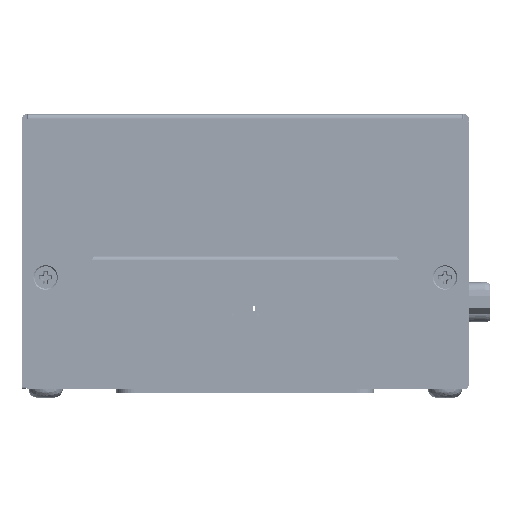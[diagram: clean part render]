
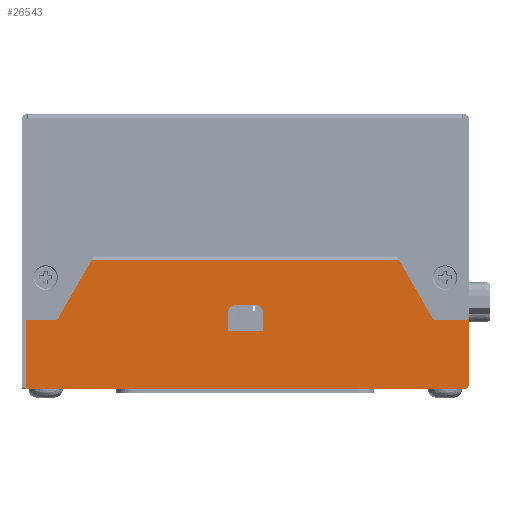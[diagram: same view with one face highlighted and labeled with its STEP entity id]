
A CAD part, left-side view. The second image highlights one B-rep face of the part: STEP entity #26543.
In plain terms, the highlighted planar face has unit normal (-1, 0, 0).
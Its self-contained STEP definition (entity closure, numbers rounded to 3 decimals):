
#498=DIRECTION('',(0.,-1.,0.));
#499=VECTOR('',#498,100.95);
#500=CARTESIAN_POINT('',(-52.,102.,30.));
#501=LINE('',#500,#499);
#523=DIRECTION('',(0.,0.,1.));
#524=VECTOR('',#523,0.3);
#525=CARTESIAN_POINT('',(-52.,1.05,29.7));
#526=LINE('',#525,#524);
#646=DIRECTION('',(0.,0.,-1.));
#647=VECTOR('',#646,0.5);
#648=CARTESIAN_POINT('',(-52.,102.,30.));
#649=LINE('',#648,#647);
#666=CARTESIAN_POINT('',(-52.,98.5,26.));
#667=DIRECTION('',(1.,0.,0.));
#668=DIRECTION('',(0.,1.,0.));
#669=AXIS2_PLACEMENT_3D('',#666,#667,#668);
#671=CARTESIAN_POINT('',(-52.,98.5,26.));
#672=DIRECTION('',(1.,0.,0.));
#673=DIRECTION('',(0.,-1.,0.));
#674=AXIS2_PLACEMENT_3D('',#671,#672,#673);
#676=CARTESIAN_POINT('',(-52.,5.5,26.));
#677=DIRECTION('',(1.,0.,0.));
#678=DIRECTION('',(0.,1.,0.));
#679=AXIS2_PLACEMENT_3D('',#676,#677,#678);
#681=CARTESIAN_POINT('',(-52.,5.5,26.));
#682=DIRECTION('',(1.,0.,0.));
#683=DIRECTION('',(0.,-1.,0.));
#684=AXIS2_PLACEMENT_3D('',#681,#682,#683);
#686=CARTESIAN_POINT('',(-52.,5.5,19.));
#687=DIRECTION('',(1.,0.,0.));
#688=DIRECTION('',(0.,1.,0.));
#689=AXIS2_PLACEMENT_3D('',#686,#687,#688);
#691=CARTESIAN_POINT('',(-52.,5.5,19.));
#692=DIRECTION('',(1.,0.,0.));
#693=DIRECTION('',(0.,-1.,0.));
#694=AXIS2_PLACEMENT_3D('',#691,#692,#693);
#696=CARTESIAN_POINT('',(-52.,49.875,17.65));
#697=DIRECTION('',(1.,0.,0.));
#698=DIRECTION('',(0.,0.,1.));
#699=AXIS2_PLACEMENT_3D('',#696,#697,#698);
#701=CARTESIAN_POINT('',(-52.,54.125,17.65));
#702=DIRECTION('',(1.,0.,0.));
#703=DIRECTION('',(0.,1.,0.));
#704=AXIS2_PLACEMENT_3D('',#701,#702,#703);
#706=DIRECTION('',(0.,-1.,0.));
#707=VECTOR('',#706,20.49);
#708=CARTESIAN_POINT('',(-52.,102.49,0.));
#709=LINE('',#708,#707);
#710=CARTESIAN_POINT('',(-52.,102.49,0.5));
#711=DIRECTION('',(-1.,0.,0.));
#712=DIRECTION('',(0.,1.,0.));
#713=AXIS2_PLACEMENT_3D('',#710,#711,#712);
#715=CARTESIAN_POINT('',(-52.,102.49,29.));
#716=DIRECTION('',(-1.,0.,0.));
#717=DIRECTION('',(0.,0.,1.));
#718=AXIS2_PLACEMENT_3D('',#715,#716,#717);
#720=CARTESIAN_POINT('',(-52.,0.5,29.2));
#721=DIRECTION('',(-1.,0.,0.));
#722=DIRECTION('',(0.,-1.,0.));
#723=AXIS2_PLACEMENT_3D('',#720,#721,#722);
#725=CARTESIAN_POINT('',(-52.,1.,1.));
#726=DIRECTION('',(-1.,0.,0.));
#727=DIRECTION('',(0.,0.,-1.));
#728=AXIS2_PLACEMENT_3D('',#725,#726,#727);
#730=DIRECTION('',(0.,-1.,0.));
#731=VECTOR('',#730,21.);
#732=CARTESIAN_POINT('',(-52.,22.,0.));
#733=LINE('',#732,#731);
#734=DIRECTION('',(0.,1.,0.));
#735=VECTOR('',#734,60.);
#736=CARTESIAN_POINT('',(-52.,22.,0.));
#737=LINE('',#736,#735);
#1224=DIRECTION('',(0.,-1.,0.));
#1225=VECTOR('',#1224,4.25);
#1226=CARTESIAN_POINT('',(-52.,54.125,19.65));
#1227=LINE('',#1226,#1225);
#1244=DIRECTION('',(0.,0.,1.));
#1245=VECTOR('',#1244,4.);
#1246=CARTESIAN_POINT('',(-52.,56.125,13.65));
#1247=LINE('',#1246,#1245);
#1248=DIRECTION('',(0.,1.,0.));
#1249=VECTOR('',#1248,8.25);
#1250=CARTESIAN_POINT('',(-52.,47.875,13.65));
#1251=LINE('',#1250,#1249);
#1260=DIRECTION('',(0.,0.,-1.));
#1261=VECTOR('',#1260,4.);
#1262=CARTESIAN_POINT('',(-52.,47.875,17.65));
#1263=LINE('',#1262,#1261);
#19842=DIRECTION('',(0.,0.,-1.));
#19843=VECTOR('',#19842,28.2);
#19844=CARTESIAN_POINT('',(-52.,0.,29.2));
#19845=LINE('',#19844,#19843);
#19858=DIRECTION('',(0.,-1.,0.));
#19859=VECTOR('',#19858,0.55);
#19860=CARTESIAN_POINT('',(-52.,1.05,29.7));
#19861=LINE('',#19860,#19859);
#19878=DIRECTION('',(0.,0.,-1.));
#19879=VECTOR('',#19878,28.5);
#19880=CARTESIAN_POINT('',(-52.,102.99,29.));
#19881=LINE('',#19880,#19879);
#19890=DIRECTION('',(0.,-1.,0.));
#19891=VECTOR('',#19890,0.49);
#19892=CARTESIAN_POINT('',(-52.,102.49,29.5));
#19893=LINE('',#19892,#19891);
#22428=CARTESIAN_POINT('',(-52.,102.49,0.));
#22430=VERTEX_POINT('',#22428);
#22431=CARTESIAN_POINT('',(-52.,1.,0.));
#22433=VERTEX_POINT('',#22431);
#22597=CARTESIAN_POINT('',(-52.,102.99,0.5));
#22598=VERTEX_POINT('',#22597);
#22599=CARTESIAN_POINT('',(-52.,102.99,29.));
#22600=VERTEX_POINT('',#22599);
#22601=CARTESIAN_POINT('',(-52.,102.49,29.5));
#22602=VERTEX_POINT('',#22601);
#22603=CARTESIAN_POINT('',(-52.,102.,29.5));
#22604=VERTEX_POINT('',#22603);
#22605=CARTESIAN_POINT('',(-52.,102.,30.));
#22606=VERTEX_POINT('',#22605);
#22607=CARTESIAN_POINT('',(-52.,1.05,30.));
#22608=VERTEX_POINT('',#22607);
#22609=CARTESIAN_POINT('',(-52.,1.05,29.7));
#22610=VERTEX_POINT('',#22609);
#22611=CARTESIAN_POINT('',(-52.,0.5,29.7));
#22612=VERTEX_POINT('',#22611);
#22613=CARTESIAN_POINT('',(-52.,0.,29.2));
#22614=VERTEX_POINT('',#22613);
#22615=CARTESIAN_POINT('',(-52.,0.,1.));
#22616=VERTEX_POINT('',#22615);
#22617=CARTESIAN_POINT('',(-52.,100.363,26.));
#22618=CARTESIAN_POINT('',(-52.,96.637,26.));
#22619=VERTEX_POINT('',#22617);
#22620=VERTEX_POINT('',#22618);
#22621=CARTESIAN_POINT('',(-52.,7.363,26.));
#22622=CARTESIAN_POINT('',(-52.,3.637,26.));
#22623=VERTEX_POINT('',#22621);
#22624=VERTEX_POINT('',#22622);
#22625=CARTESIAN_POINT('',(-52.,8.35,19.));
#22626=CARTESIAN_POINT('',(-52.,2.65,19.));
#22627=VERTEX_POINT('',#22625);
#22628=VERTEX_POINT('',#22626);
#22629=CARTESIAN_POINT('',(-52.,47.875,17.65));
#22630=CARTESIAN_POINT('',(-52.,47.875,13.65));
#22631=VERTEX_POINT('',#22629);
#22632=VERTEX_POINT('',#22630);
#22633=CARTESIAN_POINT('',(-52.,49.875,19.65));
#22634=VERTEX_POINT('',#22633);
#22635=CARTESIAN_POINT('',(-52.,54.125,19.65));
#22636=VERTEX_POINT('',#22635);
#22637=CARTESIAN_POINT('',(-52.,56.125,17.65));
#22638=VERTEX_POINT('',#22637);
#22639=CARTESIAN_POINT('',(-52.,56.125,13.65));
#22640=VERTEX_POINT('',#22639);
#25681=CARTESIAN_POINT('',(-52.,22.,0.));
#25683=VERTEX_POINT('',#25681);
#25685=CARTESIAN_POINT('',(-52.,82.,0.));
#25687=VERTEX_POINT('',#25685);
#26479=CARTESIAN_POINT('',(-52.,51.495,15.));
#26480=DIRECTION('',(1.,0.,0.));
#26481=DIRECTION('',(0.,-1.,0.));
#26482=AXIS2_PLACEMENT_3D('',#26479,#26480,#26481);
#26483=PLANE('',#26482);
#26485=ORIENTED_EDGE('',*,*,#26484,.F.);
#26487=ORIENTED_EDGE('',*,*,#26486,.F.);
#26489=ORIENTED_EDGE('',*,*,#26488,.F.);
#26491=ORIENTED_EDGE('',*,*,#26490,.F.);
#26493=ORIENTED_EDGE('',*,*,#26492,.T.);
#26494=ORIENTED_EDGE('',*,*,#26460,.F.);
#26495=ORIENTED_EDGE('',*,*,#26130,.T.);
#26496=ORIENTED_EDGE('',*,*,#26165,.F.);
#26498=ORIENTED_EDGE('',*,*,#26497,.T.);
#26500=ORIENTED_EDGE('',*,*,#26499,.F.);
#26502=ORIENTED_EDGE('',*,*,#26501,.T.);
#26504=ORIENTED_EDGE('',*,*,#26503,.F.);
#26506=ORIENTED_EDGE('',*,*,#26505,.F.);
#26508=ORIENTED_EDGE('',*,*,#26507,.T.);
#26509=EDGE_LOOP('',(#26485,#26487,#26489,#26491,#26493,#26494,#26495,#26496,
#26498,#26500,#26502,#26504,#26506,#26508));
#26510=FACE_OUTER_BOUND('',#26509,.F.);
#26512=ORIENTED_EDGE('',*,*,#26511,.F.);
#26514=ORIENTED_EDGE('',*,*,#26513,.F.);
#26515=EDGE_LOOP('',(#26512,#26514));
#26516=FACE_BOUND('',#26515,.F.);
#26518=ORIENTED_EDGE('',*,*,#26517,.F.);
#26520=ORIENTED_EDGE('',*,*,#26519,.F.);
#26521=EDGE_LOOP('',(#26518,#26520));
#26522=FACE_BOUND('',#26521,.F.);
#26524=ORIENTED_EDGE('',*,*,#26523,.F.);
#26526=ORIENTED_EDGE('',*,*,#26525,.F.);
#26528=ORIENTED_EDGE('',*,*,#26527,.F.);
#26530=ORIENTED_EDGE('',*,*,#26529,.F.);
#26532=ORIENTED_EDGE('',*,*,#26531,.F.);
#26534=ORIENTED_EDGE('',*,*,#26533,.F.);
#26535=EDGE_LOOP('',(#26524,#26526,#26528,#26530,#26532,#26534));
#26536=FACE_BOUND('',#26535,.F.);
#26538=ORIENTED_EDGE('',*,*,#26537,.F.);
#26540=ORIENTED_EDGE('',*,*,#26539,.F.);
#26541=EDGE_LOOP('',(#26538,#26540));
#26542=FACE_BOUND('',#26541,.F.);
#26543=ADVANCED_FACE('',(#26510,#26516,#26522,#26536,#26542),#26483,.F.);
#670=CIRCLE('',#669,1.863);
#675=CIRCLE('',#674,1.863);
#680=CIRCLE('',#679,1.863);
#685=CIRCLE('',#684,1.863);
#690=CIRCLE('',#689,2.85);
#695=CIRCLE('',#694,2.85);
#700=CIRCLE('',#699,2.);
#705=CIRCLE('',#704,2.);
#714=CIRCLE('',#713,0.5);
#719=CIRCLE('',#718,0.5);
#724=CIRCLE('',#723,0.5);
#729=CIRCLE('',#728,1.);
#26130=EDGE_CURVE('',#22606,#22608,#501,.T.);
#26165=EDGE_CURVE('',#22610,#22608,#526,.T.);
#26460=EDGE_CURVE('',#22606,#22604,#649,.T.);
#26484=EDGE_CURVE('',#22430,#25687,#709,.T.);
#26486=EDGE_CURVE('',#22598,#22430,#714,.T.);
#26488=EDGE_CURVE('',#22600,#22598,#19881,.T.);
#26490=EDGE_CURVE('',#22602,#22600,#719,.T.);
#26492=EDGE_CURVE('',#22602,#22604,#19893,.T.);
#26497=EDGE_CURVE('',#22610,#22612,#19861,.T.);
#26499=EDGE_CURVE('',#22614,#22612,#724,.T.);
#26501=EDGE_CURVE('',#22614,#22616,#19845,.T.);
#26503=EDGE_CURVE('',#22433,#22616,#729,.T.);
#26505=EDGE_CURVE('',#25683,#22433,#733,.T.);
#26507=EDGE_CURVE('',#25683,#25687,#737,.T.);
#26511=EDGE_CURVE('',#22623,#22624,#680,.T.);
#26513=EDGE_CURVE('',#22624,#22623,#685,.T.);
#26517=EDGE_CURVE('',#22627,#22628,#690,.T.);
#26519=EDGE_CURVE('',#22628,#22627,#695,.T.);
#26523=EDGE_CURVE('',#22631,#22632,#1263,.T.);
#26525=EDGE_CURVE('',#22634,#22631,#700,.T.);
#26527=EDGE_CURVE('',#22636,#22634,#1227,.T.);
#26529=EDGE_CURVE('',#22638,#22636,#705,.T.);
#26531=EDGE_CURVE('',#22640,#22638,#1247,.T.);
#26533=EDGE_CURVE('',#22632,#22640,#1251,.T.);
#26537=EDGE_CURVE('',#22619,#22620,#670,.T.);
#26539=EDGE_CURVE('',#22620,#22619,#675,.T.);
